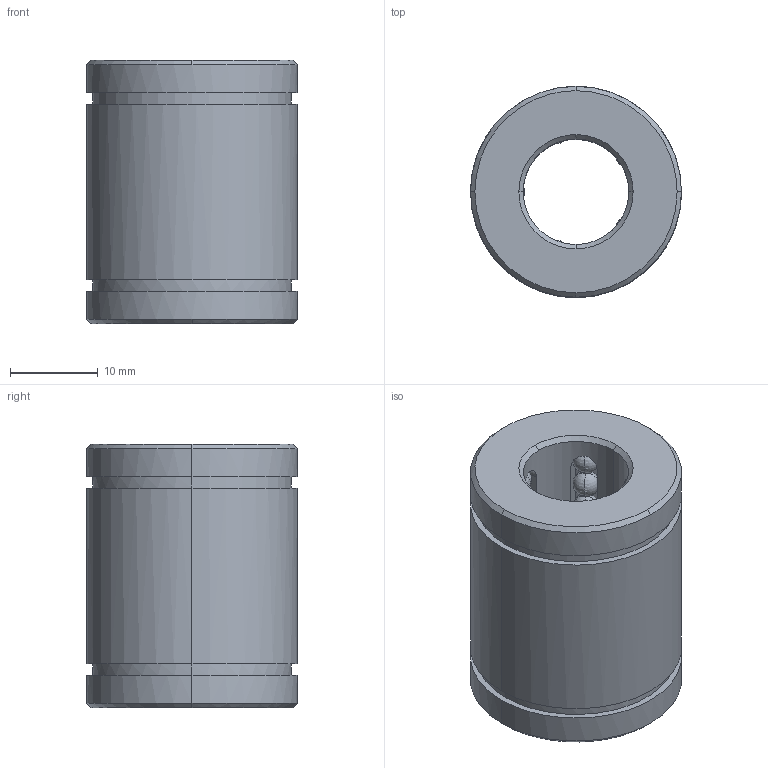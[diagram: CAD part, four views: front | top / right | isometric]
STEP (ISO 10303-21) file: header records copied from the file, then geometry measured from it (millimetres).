
FILE_DESCRIPTION(('CATIA V5 STEP Exchange'),'2;1');
FILE_NAME('C:\Users\Raffaele\Desktop\3D BOLEX\3D FILES CF BOLEX\3-BUSH REF 803\B8031230.stp','2019-06-19T14:11:25+00:00',('none'),('none'),'CATIA Version 5 Release 20 GA (IN-10)','CATIA V5 STEP AP203','none');
FILE_SCHEMA(('CONFIG_CONTROL_DESIGN'));
Length unit declared in the file: millimetre
Products named in the file (1): B8031230
Bounding box: 24 x 24 x 30 mm (x, y, z)
Volume: 9486.3 mm3; surface area: 6156.3 mm2
Topology: 41 solids, 41 shells, 219 faces, 619 edges, 170 vertices
Faces by surface type: sphere 160, cylinder 22, plane 21, cone 16
Entity records: 4827 total; most frequent: CARTESIAN_POINT 1267, DIRECTION 694, ORIENTED_EDGE 598, AXIS2_PLACEMENT_3D 407, EDGE_CURVE 299, EDGE_LOOP 229, ADVANCED_FACE 219, FACE_OUTER_BOUND 219
